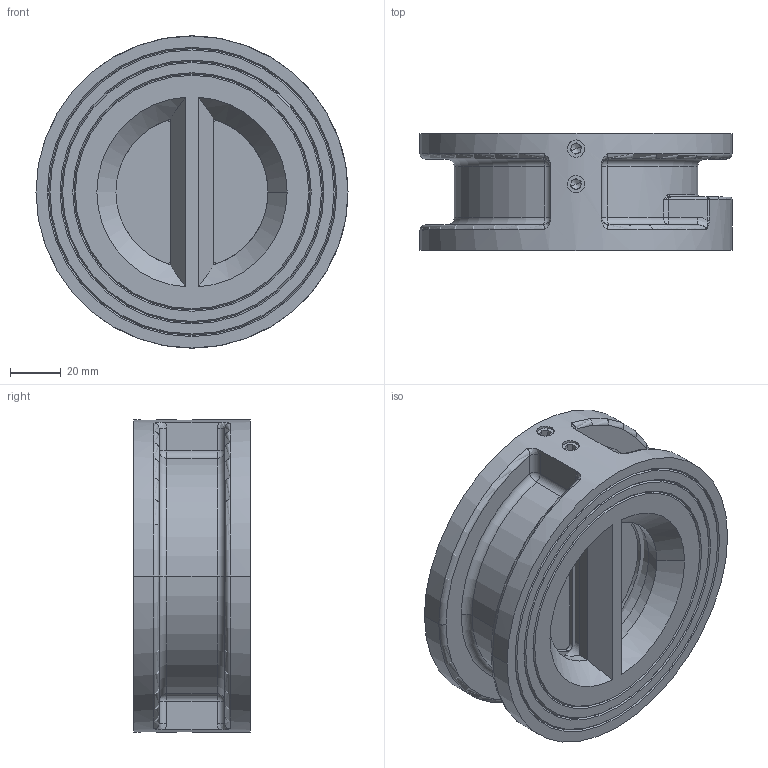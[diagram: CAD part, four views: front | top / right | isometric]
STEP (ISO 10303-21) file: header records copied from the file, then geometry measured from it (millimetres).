
FILE_DESCRIPTION (( 'STEP AP203' ), '1' );
FILE_NAME ('5306 DN65 ×°Åä.STEP', '2025-02-12T06:57:25', ( '' ), ( '' ), 'SwSTEP 2.0', 'SolidWorks 2018', '' );
FILE_SCHEMA (( 'CONFIG_CONTROL_DESIGN' ));
Length unit declared in the file: millimetre
Products named in the file (9): 50垫圈; 5306 DN65 境蝶; 50躇猾菜; 50碟板垫圈; GB╱T 77-2007[内六角平端紧定螺钉M8×10]_M8×10; 5306 DN65 蚾饜; 5306 DN65 概极; 65詠啣; 65粣
Assembly tree (18 placements, depth 2):
  5306 DN65 蚾饜
    5306 DN65 概极
    5306 DN65 境蝶
    65詠啣  x2
    65粣  x2
    50躇猾菜  x4
    GB╱T 77-2007[内六角平端紧定螺钉M8×10]_M8×10  x4
    50垫圈  x2
    50碟板垫圈  x2
Bounding box: 123 x 46 x 123 mm (x, y, z)
Volume: 286659.7 mm3; surface area: 84225.1 mm2
Topology: 18 solids, 18 shells, 404 faces, 917 edges, 544 vertices
Faces by surface type: plane 137, cylinder 122, cone 91, bspline 24, torus 18, sphere 12
Entity records: 10296 total; most frequent: CARTESIAN_POINT 3137, DIRECTION 1322, ORIENTED_EDGE 1184, EDGE_CURVE 592, AXIS2_PLACEMENT_3D 538, VERTEX_POINT 355, EDGE_LOOP 299, CIRCLE 273
